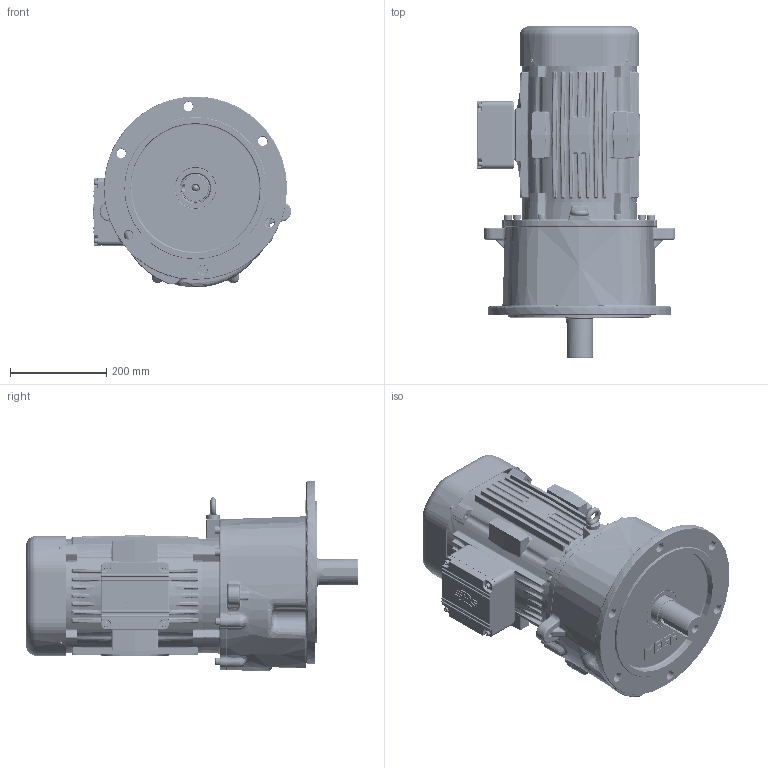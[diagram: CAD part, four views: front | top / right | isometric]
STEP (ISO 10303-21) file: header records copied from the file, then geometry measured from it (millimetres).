
FILE_DESCRIPTION(/* description */ (''),/* implementation_level */ '2;1');
FILE_NAME(/* name */ 'Z:\동력 3D 파일\PMK205_7.5kW_3D.stp',/* time_stamp */ '2021-12-01T15:29:49+09:00',/* author */ ('jaebok'),/* organization */ (''),/* preprocessor_version */ 'ST-DEVELOPER v18.1',/* originating_system */ 'Autodesk Inventor 2022',/* authorisation */ '');
FILE_SCHEMA (('AUTOMOTIVE_DESIGN { 1 0 10303 214 3 1 1 }'));
Products named in the file (1): 부품28
Bounding box: 411.4 x 688.5 x 395.96 mm (x, y, z)
Volume: 12419418.5 mm3; surface area: 2080621.6 mm2
Topology: 3 solids, 22 shells, 5320 faces, 13075 edges, 7674 vertices
Faces by surface type: bspline 1710, plane 1321, cylinder 1284, torus 502, sphere 307, cone 196
Full cylindrical faces by diameter (mm): 3.242 x4, 4.134 x4, 4.917 x9, 5 x16, 6 x9, 6.5 x8, 6.647 x17, 7 x4, 8 x4, 8.376 x1, 9.5 x4, 10 x8, 10.106 x3, 12 x5, 13.2 x1, 13.835 x1, 15 x1, 16 x8, 19 x6, 20 x1, 28 x1, 32 x1, 34 x2, 44 x1, 45 x1, 50 x2, 52 x1, 55 x1, 60 x5, 62 x2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
Entity records: 208536 total; most frequent: CARTESIAN_POINT 88975, ORIENTED_EDGE 25534, DIRECTION 21352, EDGE_CURVE 12767, AXIS2_PLACEMENT_3D 8393, VERTEX_POINT 7673, EDGE_LOOP 5628, FACE_OUTER_BOUND 5320
